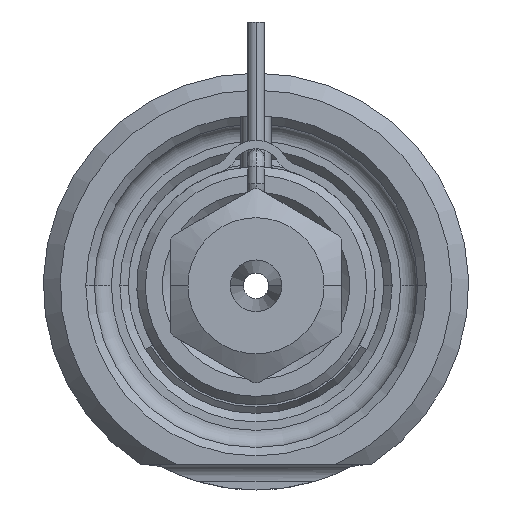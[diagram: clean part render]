
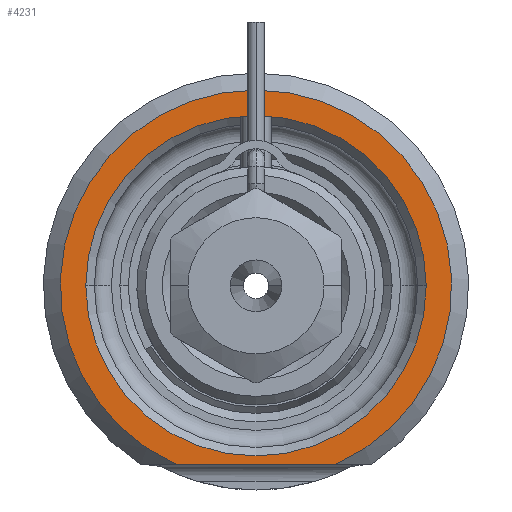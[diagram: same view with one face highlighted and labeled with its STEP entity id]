
A CAD part, front view. The second image highlights one B-rep face of the part: STEP entity #4231.
In plain terms, the highlighted planar face has unit normal (0, -1, 0).
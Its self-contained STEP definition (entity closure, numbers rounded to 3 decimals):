
#1350=CARTESIAN_POINT('',(0.,0.,0.));
#1351=DIRECTION('',(0.,-1.,0.));
#1352=DIRECTION('',(0.408,0.,-0.913));
#1353=AXIS2_PLACEMENT_3D('',#1350,#1351,#1352);
#1374=DIRECTION('',(1.,0.,0.));
#1375=VECTOR('',#1374,9.381);
#1376=CARTESIAN_POINT('',(-4.69,0.,-10.5));
#1377=LINE('',#1376,#1375);
#1378=CARTESIAN_POINT('',(0.,0.,0.));
#1379=DIRECTION('',(0.,1.,0.));
#1380=DIRECTION('',(-1.,0.,0.));
#1381=AXIS2_PLACEMENT_3D('',#1378,#1379,#1380);
#1383=CARTESIAN_POINT('',(0.,0.,0.));
#1384=DIRECTION('',(0.,1.,0.));
#1385=DIRECTION('',(1.,0.,0.));
#1386=AXIS2_PLACEMENT_3D('',#1383,#1384,#1385);
#2318=CARTESIAN_POINT('',(-10.,0.,0.));
#2319=CARTESIAN_POINT('',(10.,0.,0.));
#2320=VERTEX_POINT('',#2318);
#2321=VERTEX_POINT('',#2319);
#2362=CARTESIAN_POINT('',(-4.69,0.,-10.5));
#2363=CARTESIAN_POINT('',(4.69,0.,-10.5));
#2364=VERTEX_POINT('',#2362);
#2365=VERTEX_POINT('',#2363);
#4216=CARTESIAN_POINT('',(0.,0.,0.));
#4217=DIRECTION('',(0.,-1.,0.));
#4218=DIRECTION('',(1.,0.,0.));
#4219=AXIS2_PLACEMENT_3D('',#4216,#4217,#4218);
#4220=PLANE('',#4219);
#4221=ORIENTED_EDGE('',*,*,#4151,.F.);
#4222=ORIENTED_EDGE('',*,*,#4208,.F.);
#4223=EDGE_LOOP('',(#4221,#4222));
#4224=FACE_OUTER_BOUND('',#4223,.F.);
#4226=ORIENTED_EDGE('',*,*,#4225,.F.);
#4228=ORIENTED_EDGE('',*,*,#4227,.F.);
#4229=EDGE_LOOP('',(#4226,#4228));
#4230=FACE_BOUND('',#4229,.F.);
#4231=ADVANCED_FACE('',(#4224,#4230),#4220,.T.);
#1354=CIRCLE('',#1353,11.5);
#1382=CIRCLE('',#1381,10.);
#1387=CIRCLE('',#1386,10.);
#4151=EDGE_CURVE('',#2364,#2365,#1377,.T.);
#4208=EDGE_CURVE('',#2365,#2364,#1354,.T.);
#4225=EDGE_CURVE('',#2320,#2321,#1382,.T.);
#4227=EDGE_CURVE('',#2321,#2320,#1387,.T.);
